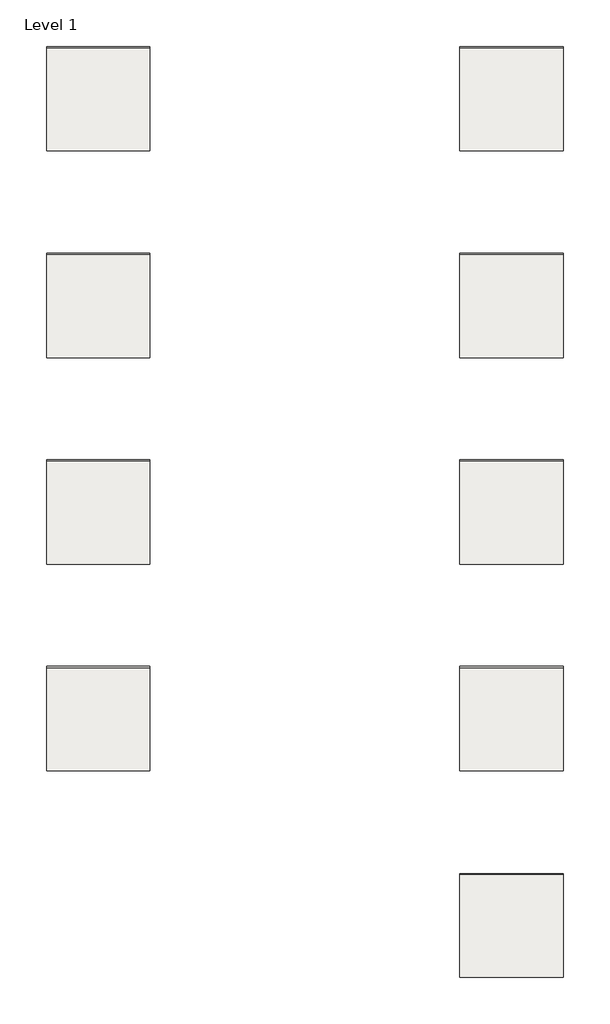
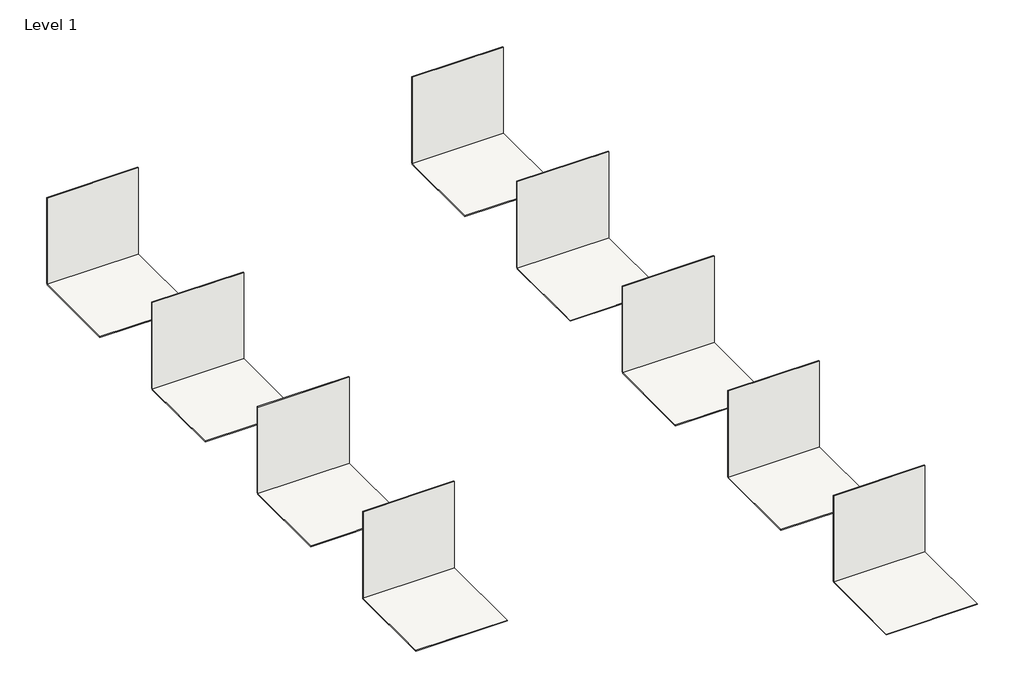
# One storey: 18 coverings.
"""IFC4 building model written with IfcOpenShell, lengths in millimetres."""

from ifc_helpers import new_model, si_unit, frame, origin, origin_with_axes, place, context, project, spatial, polyline, outline, extrude, element, save

model = new_model("IFC4")

# Units and contexts
model_context = context("Model", 3, world=origin())
ifc_project = project(units=[si_unit("LENGTHUNIT", "METRE", prefix="MILLI")], contexts=[model_context])

# Site, building, storey
site = spatial("IfcSite", under=ifc_project)
building = spatial("IfcBuilding", under=site)
storey = spatial("IfcBuildingStorey", under=building, Name="Level 1", Elevation=0.0)

# Coverings
placement = place(None, origin())
element("IfcCovering", 1, ObjectType="REVIGRES-GRIGIO_DAMASCO-BASE-44.35x88.9-POL", at=placement, inside=storey, context=model_context, shape_type="SweptSolid", body=[
    extrude(outline(polyline([(14537.6288739, -5775.9559027), (15537.6288739, -5775.9559027), (15537.6288739, -5786.4559027), (14537.6288739, -5786.4559027), (14537.6288739, -5775.9559027)])), origin_with_axes(), (0.0, 0.0, 1.0), 1000.0),
])
element("IfcCovering", 2, ObjectType="REVIGRES-GRIGIO_DAMASCO-BASE-44.35x88.9-POL", at=placement, inside=storey, context=model_context, shape_type="SweptSolid", body=[
    extrude(outline(polyline([(14537.6288739, -5786.4559027), (15537.6288739, -5786.4559027), (15537.6288739, -6786.4559027), (14537.6288739, -6786.4559027), (14537.6288739, -5786.4559027)])), frame((0.0, 0.0, -10.5), z_axis=(0.0, 0.0, 1.0), x_axis=(1.0, 0.0, 0.0)), (0.0, 0.0, 1.0), 10.5),
])
element("IfcCovering", 3, ObjectType="REVIGRES-GRIGIO_DAMASCO-BASE-44.35x88.9-MATT_RECT", at=placement, inside=storey, context=model_context, shape_type="SweptSolid", body=[
    extrude(outline(polyline([(10537.6288739, -5775.9559027), (11537.6288739, -5775.9559027), (11537.6288739, -5786.4559027), (10537.6288739, -5786.4559027), (10537.6288739, -5775.9559027)])), origin_with_axes(), (0.0, 0.0, 1.0), 1000.0),
])
element("IfcCovering", 4, ObjectType="REVIGRES-GRIGIO_DAMASCO-BASE-44.35x88.9-MATT_RECT", at=placement, inside=storey, context=model_context, shape_type="SweptSolid", body=[
    extrude(outline(polyline([(10537.6288739, -5786.4559027), (11537.6288739, -5786.4559027), (11537.6288739, -6786.4559027), (10537.6288739, -6786.4559027), (10537.6288739, -5786.4559027)])), frame((0.0, 0.0, -10.5), z_axis=(0.0, 0.0, 1.0), x_axis=(1.0, 0.0, 0.0)), (0.0, 0.0, 1.0), 10.5),
])
element("IfcCovering", 5, ObjectType="REVIGRES-GRIGIO_DAMASCO-BASE-59.2x59.2-POL", at=placement, inside=storey, context=model_context, shape_type="SweptSolid", body=[
    extrude(outline(polyline([(14537.6288739, -7776.6559027), (15537.6288739, -7776.6559027), (15537.6288739, -7786.4559027), (14537.6288739, -7786.4559027), (14537.6288739, -7776.6559027)])), origin_with_axes(), (0.0, 0.0, 1.0), 1000.0),
])
element("IfcCovering", 6, ObjectType="REVIGRES-GRIGIO_DAMASCO-BASE-59.2x59.2-POL", at=placement, inside=storey, context=model_context, shape_type="SweptSolid", body=[
    extrude(outline(polyline([(14537.6288739, -7786.4559027), (15537.6288739, -7786.4559027), (15537.6288739, -8786.4559027), (14537.6288739, -8786.4559027), (14537.6288739, -7786.4559027)])), frame((0.0, 0.0, -9.8), z_axis=(0.0, 0.0, 1.0), x_axis=(1.0, 0.0, 0.0)), (0.0, 0.0, 1.0), 9.8),
])
element("IfcCovering", 7, ObjectType="REVIGRES-GRIGIO_DAMASCO-BASE-59.2x59.2-MATT_RECT", at=placement, inside=storey, context=model_context, shape_type="SweptSolid", body=[
    extrude(outline(polyline([(10537.6288739, -7776.6559027), (11537.6288739, -7776.6559027), (11537.6288739, -7786.4559027), (10537.6288739, -7786.4559027), (10537.6288739, -7776.6559027)])), origin_with_axes(), (0.0, 0.0, 1.0), 1000.0),
])
element("IfcCovering", 8, ObjectType="REVIGRES-GRIGIO_DAMASCO-BASE-59.2x59.2-MATT_RECT", at=placement, inside=storey, context=model_context, shape_type="SweptSolid", body=[
    extrude(outline(polyline([(10537.6288739, -7786.4559027), (11537.6288739, -7786.4559027), (11537.6288739, -8786.4559027), (10537.6288739, -8786.4559027), (10537.6288739, -7786.4559027)])), frame((0.0, 0.0, -9.8), z_axis=(0.0, 0.0, 1.0), x_axis=(1.0, 0.0, 0.0)), (0.0, 0.0, 1.0), 9.8),
])
element("IfcCovering", 9, ObjectType="REVIGRES-GRIGIO_DAMASCO-BASE-88.9x88.9-POL", at=placement, inside=storey, context=model_context, shape_type="SweptSolid", body=[
    extrude(outline(polyline([(14537.6288739, -9775.9559027), (15537.6288739, -9775.9559027), (15537.6288739, -9786.4559027), (14537.6288739, -9786.4559027), (14537.6288739, -9775.9559027)])), origin_with_axes(), (0.0, 0.0, 1.0), 1000.0),
])
element("IfcCovering", 10, ObjectType="REVIGRES-GRIGIO_DAMASCO-BASE-88.9x88.9-POL", at=placement, inside=storey, context=model_context, shape_type="SweptSolid", body=[
    extrude(outline(polyline([(14537.6288739, -9786.4559027), (15537.6288739, -9786.4559027), (15537.6288739, -10786.4559027), (14537.6288739, -10786.4559027), (14537.6288739, -9786.4559027)])), frame((0.0, 0.0, -10.5), z_axis=(0.0, 0.0, 1.0), x_axis=(1.0, 0.0, 0.0)), (0.0, 0.0, 1.0), 10.5),
])
element("IfcCovering", 11, ObjectType="REVIGRES-GRIGIO_DAMASCO-BASE-88.9x88.9-MATT_RECT", at=placement, inside=storey, context=model_context, shape_type="SweptSolid", body=[
    extrude(outline(polyline([(10537.6288739, -9775.9559027), (11537.6288739, -9775.9559027), (11537.6288739, -9786.4559027), (10537.6288739, -9786.4559027), (10537.6288739, -9775.9559027)])), origin_with_axes(), (0.0, 0.0, 1.0), 1000.0),
])
element("IfcCovering", 12, ObjectType="REVIGRES-GRIGIO_DAMASCO-BASE-88.9x88.9-MATT_RECT", at=placement, inside=storey, context=model_context, shape_type="SweptSolid", body=[
    extrude(outline(polyline([(10537.6288739, -9786.4559027), (11537.6288739, -9786.4559027), (11537.6288739, -10786.4559027), (10537.6288739, -10786.4559027), (10537.6288739, -9786.4559027)])), frame((0.0, 0.0, -10.5), z_axis=(0.0, 0.0, 1.0), x_axis=(1.0, 0.0, 0.0)), (0.0, 0.0, 1.0), 10.5),
])
element("IfcCovering", 13, ObjectType="REVIGRES-GRIGIO_DAMASCO-BASE-59.2x118.6-POL", at=placement, inside=storey, context=model_context, shape_type="SweptSolid", body=[
    extrude(outline(polyline([(14537.6288739, -11776.6559027), (15537.6288739, -11776.6559027), (15537.6288739, -11786.4559027), (14537.6288739, -11786.4559027), (14537.6288739, -11776.6559027)])), origin_with_axes(), (0.0, 0.0, 1.0), 1000.0),
])
element("IfcCovering", 14, ObjectType="REVIGRES-GRIGIO_DAMASCO-BASE-59.2x118.6-POL", at=placement, inside=storey, context=model_context, shape_type="SweptSolid", body=[
    extrude(outline(polyline([(14537.6288739, -11786.4559027), (15537.6288739, -11786.4559027), (15537.6288739, -12786.4559027), (14537.6288739, -12786.4559027), (14537.6288739, -11786.4559027)])), frame((0.0, 0.0, -9.8), z_axis=(0.0, 0.0, 1.0), x_axis=(1.0, 0.0, 0.0)), (0.0, 0.0, 1.0), 9.8),
])
element("IfcCovering", 15, ObjectType="REVIGRES-GRIGIO_DAMASCO-BASE-59.2x118.6-MATT_RECT", at=placement, inside=storey, context=model_context, shape_type="SweptSolid", body=[
    extrude(outline(polyline([(10537.6288739, -11776.6559027), (11537.6288739, -11776.6559027), (11537.6288739, -11786.4559027), (10537.6288739, -11786.4559027), (10537.6288739, -11776.6559027)])), origin_with_axes(), (0.0, 0.0, 1.0), 1000.0),
])
element("IfcCovering", 16, ObjectType="REVIGRES-GRIGIO_DAMASCO-BASE-59.2x118.6-MATT_RECT", at=placement, inside=storey, context=model_context, shape_type="SweptSolid", body=[
    extrude(outline(polyline([(10537.6288739, -11781.5559027), (11537.6288739, -11781.5559027), (11537.6288739, -12786.4559027), (10537.6288739, -12786.4559027), (10537.6288739, -11781.5559027)])), frame((0.0, 0.0, -9.8), z_axis=(0.0, 0.0, 1.0), x_axis=(1.0, 0.0, 0.0)), (0.0, 0.0, 1.0), 9.8),
])
element("IfcCovering", 17, ObjectType="REVIGRES-GRIGIO_DAMASCO-BASE-119.8x277.8-POL", at=placement, inside=storey, context=model_context, shape_type="SweptSolid", body=[
    extrude(outline(polyline([(14537.6288739, -13780.4559027), (15537.6288739, -13780.4559027), (15537.6288739, -13786.4559027), (14537.6288739, -13786.4559027), (14537.6288739, -13780.4559027)])), origin_with_axes(), (0.0, 0.0, 1.0), 1000.0),
])
element("IfcCovering", 18, ObjectType="REVIGRES-GRIGIO_DAMASCO-BASE-119.8x277.8-POL", at=placement, inside=storey, context=model_context, shape_type="SweptSolid", body=[
    extrude(outline(polyline([(14537.6288739, -13786.4559027), (15537.6288739, -13786.4559027), (15537.6288739, -14786.4559027), (14537.6288739, -14786.4559027), (14537.6288739, -13786.4559027)])), frame((0.0, 0.0, -6.0), z_axis=(0.0, 0.0, 1.0), x_axis=(1.0, 0.0, 0.0)), (0.0, 0.0, 1.0), 6.0),
])

save(model, "model.ifc")
